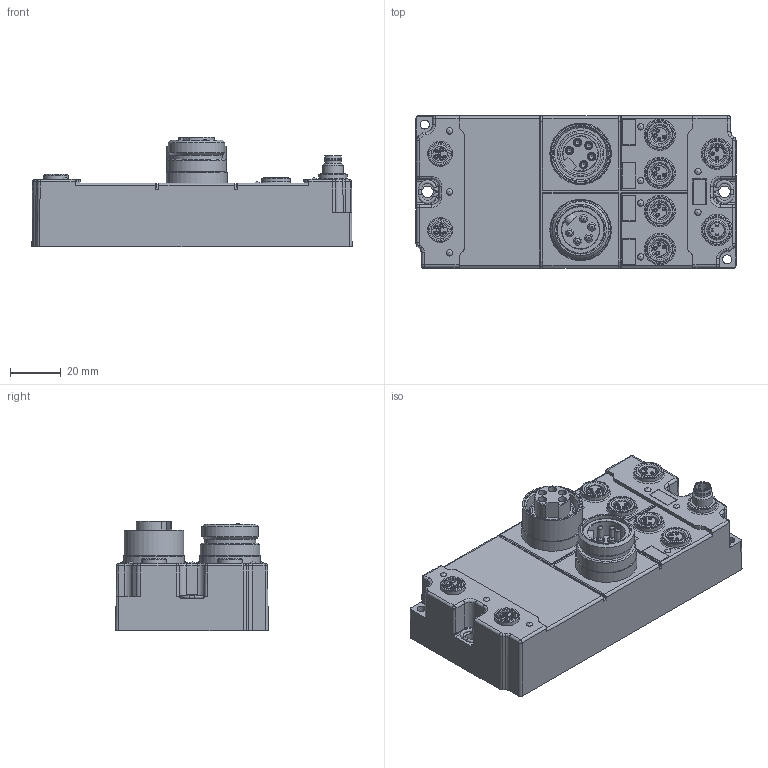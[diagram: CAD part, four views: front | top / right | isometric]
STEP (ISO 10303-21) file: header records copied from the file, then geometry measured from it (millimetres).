
FILE_DESCRIPTION((''),'2;1');
FILE_NAME('C:\Users\Christiank\Documents\Inventor\Dirk_Bechtel\019799_plus_voll.stp','2012-11-16T15:19:03',('ChristianK'),(''),'Autodesk Inventor 2012','Autodesk Inventor 2012','');
FILE_SCHEMA(('AUTOMOTIVE_DESIGN { 1 0 10303 214 1 1 1 1 }'));
Length unit declared in the file: millimetre
Products named in the file (1): Bauteil4
Bounding box: 126 x 60 x 43.1 mm (x, y, z)
Volume: 192620.1 mm3; surface area: 53681.8 mm2
Topology: 1 solids, 68 shells, 2222 faces, 5337 edges, 3261 vertices
Faces by surface type: plane 880, cylinder 697, torus 201, bspline 190, cone 165, sphere 89
Full cylindrical faces by diameter (mm): 1 x3, 1.05 x3, 1.1 x27, 1.2 x2, 1.6 x14, 1.7 x22, 1.95 x5, 2.05 x2, 2.1 x10, 2.4 x9, 2.5 x4, 2.7 x15, 2.85 x10, 2.95 x5, 3.2 x24, 3.3 x24, 3.4 x10, 3.45 x10, 5.6 x9, 5.8 x1, 6.5 x2, 6.9 x5, 7 x5, 7.1 x3, 8 x1, 8.2 x2, 8.3 x2, 8.5 x1, 8.8 x6, 9.1 x2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
Entity records: 67280 total; most frequent: CARTESIAN_POINT 17432, DIRECTION 10145, ORIENTED_EDGE 8900, EDGE_CURVE 4450, AXIS2_PLACEMENT_3D 4104, EDGE_LOOP 3062, VERTEX_POINT 3015, FACE_OUTER_BOUND 2222
